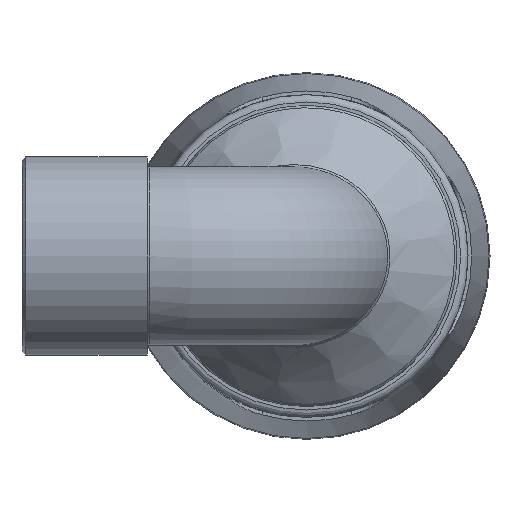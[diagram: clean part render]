
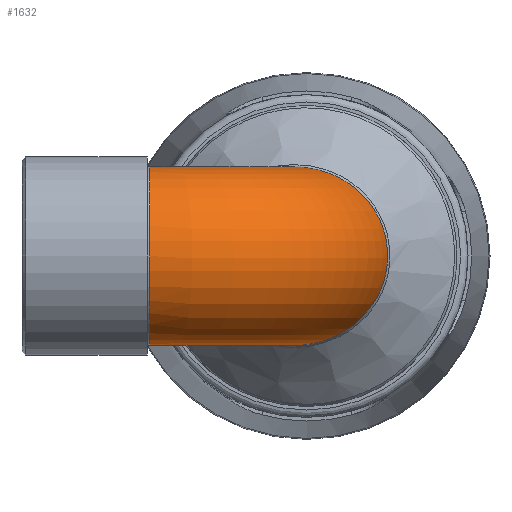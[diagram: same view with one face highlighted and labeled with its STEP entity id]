
A CAD part, left-side view. The second image highlights one B-rep face of the part: STEP entity #1632.
In plain terms, the highlighted toroidal (fillet/blend) face has major radius 24.832 mm and minor radius 14.108 mm.
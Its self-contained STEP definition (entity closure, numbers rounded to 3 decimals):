
#17=TOROIDAL_SURFACE('',#1782,24.832,14.108);
#186=B_SPLINE_CURVE_WITH_KNOTS('',3,(#2795,#2796,#2797,#2798,#2799,#2800,
#2801,#2802,#2803,#2804,#2805,#2806,#2807,#2808,#2809,#2810,#2811,#2812,
#2813),.UNSPECIFIED.,.T.,.F.,(4,1,1,1,1,1,1,1,1,1,1,1,1,1,1,1,4),(-3.142,
-2.917,-2.693,-2.244,-1.795,
-1.346,-1.047,-0.449,0.15,
0.449,0.898,1.346,1.795,2.244,
2.693,2.917,3.142),.UNSPECIFIED.);
#365=FACE_BOUND('',#518,.T.);
#395=FACE_OUTER_BOUND('',#517,.T.);
#517=EDGE_LOOP('',(#1186));
#518=EDGE_LOOP('',(#1187));
#664=CIRCLE('',#1777,14.108);
#757=VERTEX_POINT('',#2793);
#761=VERTEX_POINT('',#2824);
#921=EDGE_CURVE('',#757,#757,#186,.T.);
#925=EDGE_CURVE('',#761,#761,#664,.T.);
#1186=ORIENTED_EDGE('',*,*,#921,.F.);
#1187=ORIENTED_EDGE('',*,*,#925,.T.);
#1632=ADVANCED_FACE('',(#395,#365),#17,.T.);
#1777=AXIS2_PLACEMENT_3D('',#2825,#2030,#2031);
#1782=AXIS2_PLACEMENT_3D('',#2833,#2040,#2041);
#2030=DIRECTION('center_axis',(0.,-1.,0.));
#2031=DIRECTION('ref_axis',(-1.,0.,0.));
#2040=DIRECTION('center_axis',(0.,0.,1.));
#2041=DIRECTION('ref_axis',(1.,0.,0.));
#2793=CARTESIAN_POINT('',(15.547,19.468,0.));
#2795=CARTESIAN_POINT('Ctrl Pts',(15.547,19.468,0.));
#2796=CARTESIAN_POINT('Ctrl Pts',(15.547,19.468,1.114));
#2797=CARTESIAN_POINT('Ctrl Pts',(15.463,19.067,3.341));
#2798=CARTESIAN_POINT('Ctrl Pts',(15.093,16.915,7.374));
#2799=CARTESIAN_POINT('Ctrl Pts',(14.71,12.602,11.324));
#2800=CARTESIAN_POINT('Ctrl Pts',(14.642,6.219,14.067));
#2801=CARTESIAN_POINT('Ctrl Pts',(14.712,0.081,14.311));
#2802=CARTESIAN_POINT('Ctrl Pts',(14.808,-6.406,12.267));
#2803=CARTESIAN_POINT('Ctrl Pts',(14.888,-12.101,6.903));
#2804=CARTESIAN_POINT('Ctrl Pts',(14.904,-13.375,-0.834));
#2805=CARTESIAN_POINT('Ctrl Pts',(14.875,-11.181,-7.252));
#2806=CARTESIAN_POINT('Ctrl Pts',(14.818,-7.096,-11.811));
#2807=CARTESIAN_POINT('Ctrl Pts',(14.721,-0.683,-14.35));
#2808=CARTESIAN_POINT('Ctrl Pts',(14.642,6.217,-14.064));
#2809=CARTESIAN_POINT('Ctrl Pts',(14.711,12.603,-11.327));
#2810=CARTESIAN_POINT('Ctrl Pts',(15.093,16.915,-7.374));
#2811=CARTESIAN_POINT('Ctrl Pts',(15.463,19.067,-3.342));
#2812=CARTESIAN_POINT('Ctrl Pts',(15.547,19.468,-1.114));
#2813=CARTESIAN_POINT('Ctrl Pts',(15.547,19.468,0.));
#2824=CARTESIAN_POINT('',(14.108,24.832,0.));
#2825=CARTESIAN_POINT('Origin',(0.,24.832,0.));
#2833=CARTESIAN_POINT('Origin',(24.832,24.832,0.));
